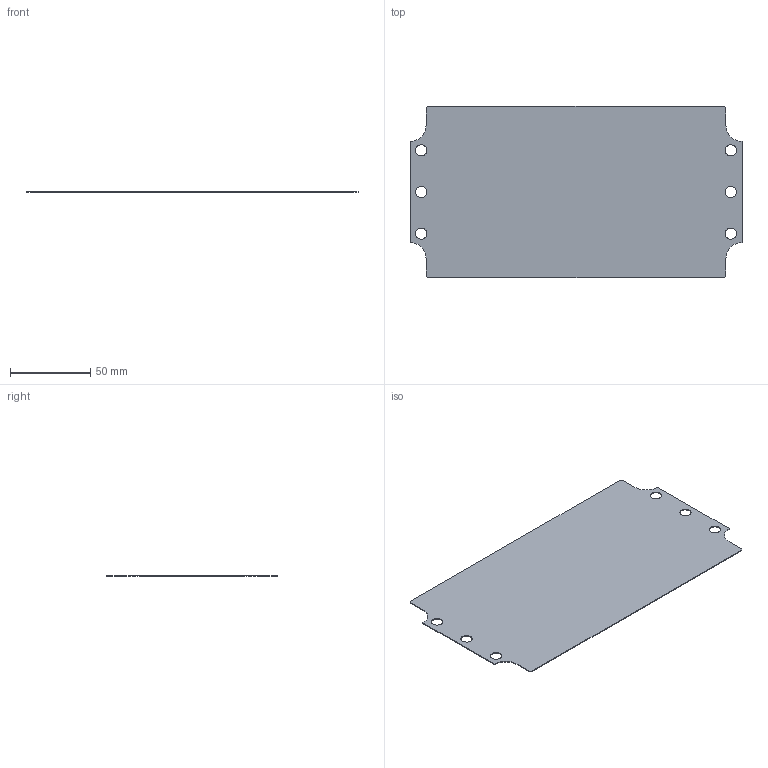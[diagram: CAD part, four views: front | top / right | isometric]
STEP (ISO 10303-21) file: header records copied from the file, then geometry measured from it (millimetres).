
FILE_DESCRIPTION((''),'2;1');
FILE_NAME('c:\temp\123PL.stp','2006-07-18T13:51:03',('kbond'),(''),'Autodesk Inventor 11','Autodesk Inventor 11','');
FILE_SCHEMA(('AUTOMOTIVE_DESIGN { 1 0 10303 214 1 1 1 1 }'));
Length unit declared in the file: millimetre
Products named in the file (1): 123PL
Bounding box: 207 x 107 x 0.5 mm (x, y, z)
Volume: 10561 mm3; surface area: 42614.1 mm2
Topology: 1 solids, 1 shells, 24 faces, 72 edges, 50 vertices
Faces by surface type: plane 14, bspline 6, cylinder 4
Entity records: 865 total; most frequent: CARTESIAN_POINT 231, ORIENTED_EDGE 120, DIRECTION 118, EDGE_CURVE 60, VERTEX_POINT 44, EDGE_LOOP 42, VECTOR 40, LINE 40
